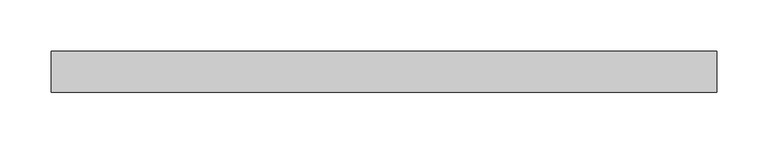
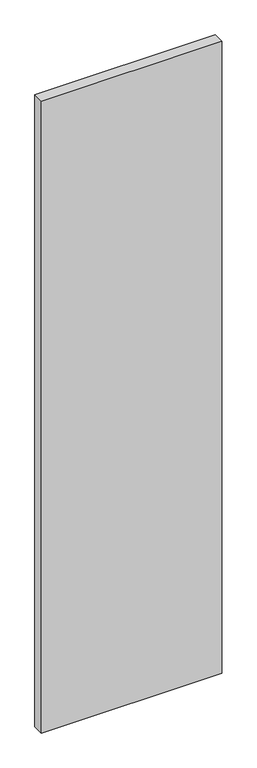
"""IFC4 building model written with IfcOpenShell, lengths in millimetres: plate geometry, Vitré."""

from ifc_helpers import new_model, si_unit, origin, origin_with_axes, place, context, project, spatial, polyline, outline, extrude, source, transform, mapped, element, save


def plate_0f5da5e9(model_context):
    return source(origin(), model_context, "Body", "SweptSolid", [
        extrude(outline(polyline([(-325.0625002, -20.0), (-325.0625002, 20.0), (325.0625002, 20.0), (325.0625002, -20.0), (-325.0625002, -20.0)])), origin_with_axes(), (0.0, 0.0, 1.0), 2407.625),
    ])


if __name__ == "__main__":
    model = new_model("IFC4")
    model_context = context("Model", 3, world=origin())
    ifc_project = project(units=[si_unit("LENGTHUNIT", "METRE", prefix="MILLI")], contexts=[model_context])
    site = spatial("IfcSite", under=ifc_project)
    building = spatial("IfcBuilding", under=site)
    placement = place(None, origin())
    plate_shape = plate_0f5da5e9(model_context)
    element("IfcPlate", 1, ObjectType="Vitré", at=placement, inside=building, context=model_context, shape_type="MappedRepresentation", body=[
        mapped(plate_shape, transform((0.0, 0.0, 0.0), x_axis=(1.0, 0.0, 0.0), y_axis=(0.0, 1.0, 0.0), z_axis=(0.0, 0.0, 1.0))),
    ])
    save(model, "model.ifc")
